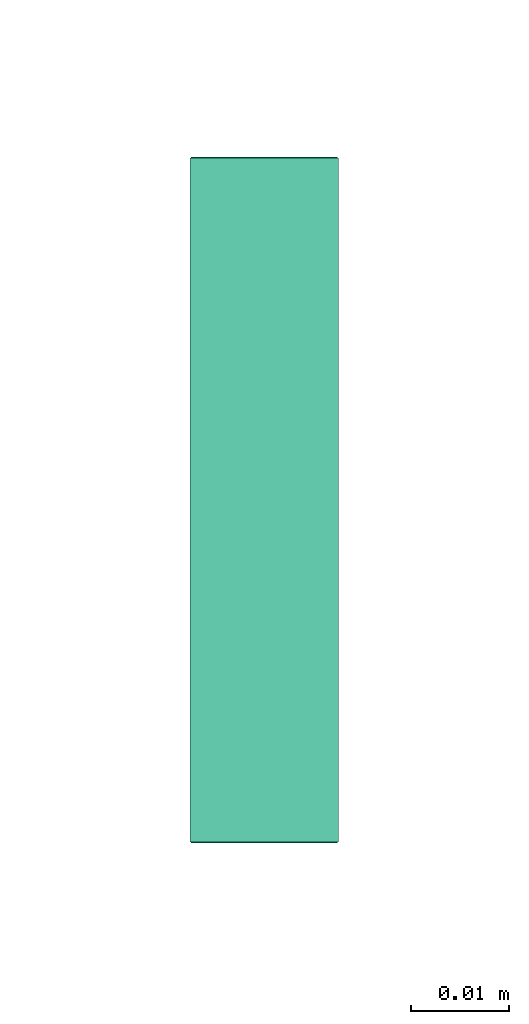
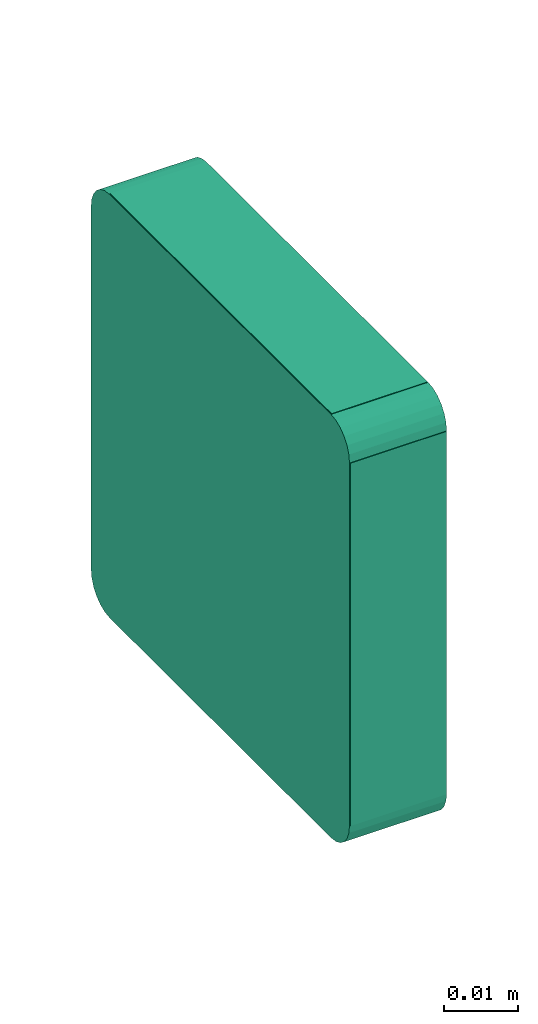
# One storey, part 7 of 10: 1 distribution control element.
"""IFC2X3 building model written with IfcOpenShell, lengths in millimetres."""

import ifcopenshell
import ifcopenshell.guid

model = None  # the IFC model being written
_history = None  # IfcOwnerHistory: only IFC2X3 demands one
_inside = {}  # id of a spatial element -> (the spatial element, [elements in it])
_under = {}  # id of a project, library or spatial element -> (it, [spatial elements below it])
_declared = {}  # id of a project -> (the project, [libraries it declares])
_typed = {}  # id of a type object -> (the type object, [elements of that type])
_made_of = {}  # id of a material, layer set ... -> (it, [elements and type objects made of it])


def new_model(schema):
    """Start an empty IFC model of exactly this schema.

    Asked for "IFC4X3", IfcOpenShell would pick the latest addendum, in which some entities
    have other attributes; the version numbers below select the first issue.
    IFC2X3 requires an IfcOwnerHistory on every rooted entity: one is made here for all.
    """
    global model, _history
    if schema == "IFC4X3":
        model = ifcopenshell.file(schema_version=(4, 3, 0, 0))
    else:
        model = ifcopenshell.file(schema=schema)
    _inside.clear()
    _under.clear()
    _declared.clear()
    _typed.clear()
    _made_of.clear()
    _history = None
    if model.schema == "IFC2X3":
        org = make("IfcOrganization", Name="unknown")
        user = make(
            "IfcPersonAndOrganization",
            ThePerson=make("IfcPerson", FamilyName="unknown"),
            TheOrganization=org,
        )
        app = make(
            "IfcApplication",
            ApplicationDeveloper=org,
            Version="unknown",
            ApplicationFullName="unknown",
            ApplicationIdentifier="unknown",
        )
        _history = make(
            "IfcOwnerHistory",
            OwningUser=user,
            OwningApplication=app,
            ChangeAction="ADDED",
            CreationDate=0,
        )
    return model


def make(cls, **values):
    """One entity of the class cls with the attributes given. An attribute that is None is left unset."""
    return model.create_entity(
        cls, **{name: value for name, value in values.items() if value is not None}
    )


def entity(cls, *values):
    """Any entity or typed value of the class cls, its attributes in the order of the schema. None: left unset."""
    e = model.create_entity(cls)
    for i, value in enumerate(values):
        if value is not None:
            e[i] = value
    return e


def rooted(cls, **values):
    """An entity with a GlobalId (a new one), such as an element, a storey or a relation."""
    return make(cls, GlobalId=ifcopenshell.guid.new(), OwnerHistory=_history, **values)


def si_unit(unit_type, name, prefix=None):
    """IfcSIUnit, for example si_unit("LENGTHUNIT", "METRE", prefix="MILLI")."""
    return make("IfcSIUnit", UnitType=unit_type, Prefix=prefix, Name=name)


def converted_unit(unit_type, name, factor, base, dimensions=None, offset=None):
    """IfcConversionBasedUnit, such as the inch: factor (a typed value) times the base unit."""
    return make(
        "IfcConversionBasedUnit"
        if offset is None
        else "IfcConversionBasedUnitWithOffset",
        ConversionOffset=offset,
        Dimensions=None
        if dimensions is None
        else entity("IfcDimensionalExponents", *dimensions),
        UnitType=unit_type,
        Name=name,
        ConversionFactor=make(
            "IfcMeasureWithUnit", ValueComponent=factor, UnitComponent=base
        ),
    )


def derived_unit(unit_type, elements):
    """IfcDerivedUnit: a product of units, each with its exponent."""
    return make(
        "IfcDerivedUnit",
        Elements=[
            make("IfcDerivedUnitElement", Unit=unit, Exponent=power)
            for unit, power in elements
        ],
        UnitType=unit_type,
    )


def assignment(units):
    """IfcUnitAssignment: the units of a project."""
    return None if units is None else make("IfcUnitAssignment", Units=units)


def point(xyz):
    """IfcCartesianPoint."""
    return None if xyz is None else make("IfcCartesianPoint", Coordinates=xyz)


def direction(xyz):
    """IfcDirection."""
    return None if xyz is None else make("IfcDirection", DirectionRatios=xyz)


def frame(location, z_axis=None, x_axis=None):
    """IfcAxis2Placement3D, a coordinate frame: its origin and axes. An axis left out is left unset."""
    return make(
        "IfcAxis2Placement3D",
        Location=point(location),
        Axis=direction(z_axis),
        RefDirection=direction(x_axis),
    )


def origin_with_axes():
    """The frame at (0, 0, 0) with the z axis (0, 0, 1) and the x axis (1, 0, 0) written out."""
    return frame((0.0, 0.0, 0.0), z_axis=(0.0, 0.0, 1.0), x_axis=(1.0, 0.0, 0.0))


def place(relative_to, where):
    """IfcLocalPlacement: puts the frame where relative to a parent placement (None: the world)."""
    return make(
        "IfcLocalPlacement", PlacementRelTo=relative_to, RelativePlacement=where
    )


def context(
    kind, dimensions, precision=None, world=None, true_north=None, identifier=None
):
    """IfcGeometricRepresentationContext, for example the 3D "Model" context."""
    return make(
        "IfcGeometricRepresentationContext",
        ContextIdentifier=identifier,
        ContextType=kind,
        CoordinateSpaceDimension=dimensions,
        Precision=precision,
        WorldCoordinateSystem=world,
        TrueNorth=true_north,
    )


def subcontext(parent, identifier, kind, view, scale=None):
    """IfcGeometricRepresentationSubContext, for example "Body" below "Model"."""
    return make(
        "IfcGeometricRepresentationSubContext",
        ContextIdentifier=identifier,
        ContextType=kind,
        ParentContext=parent,
        TargetScale=scale,
        TargetView=view,
    )


def project(units=None, contexts=None):
    """IfcProject with its units and contexts."""
    return rooted(
        "IfcProject",
        Name="project",
        RepresentationContexts=contexts,
        UnitsInContext=assignment(units),
    )


def spatial(cls, under=None, at=None, **own):
    """A site, building, storey or space (cls), placed at a placement, below another one or the project."""
    s = rooted(cls, ObjectPlacement=at, **own)
    if under is not None:
        _under.setdefault(under.id(), (under, []))[1].append(s)
    return s


def faces_of(points, faces, orient=None, outer=None):
    """IfcFace entities. A face is a list of loops; a loop is a list of indices into points, from 0.

    orient and outer hold one flag for each loop. By default every Orientation is true, the
    first loop of a face is its IfcFaceOuterBound and the others are IfcFaceBound.
    """
    made = []
    for i, loops in enumerate(faces):
        bounds = []
        for j, loop in enumerate(loops):
            is_outer = j == 0 if outer is None else outer[i][j]
            bounds.append(
                make(
                    "IfcFaceOuterBound" if is_outer else "IfcFaceBound",
                    Bound=make("IfcPolyLoop", Polygon=[points[k] for k in loop]),
                    Orientation=True if orient is None else orient[i][j],
                )
            )
        made.append(make("IfcFace", Bounds=bounds))
    return made


def open_shell(faces, orient=None, outer=None):
    """The faces of one IfcOpenShell. surface_model builds it on its shared points."""
    return ("IfcOpenShell", faces, orient, outer)


def surface_model(cls, points, shells):
    """IfcFaceBasedSurfaceModel or IfcShellBasedSurfaceModel (cls): surfaces that need not close."""
    shared = [point(p) for p in points]
    made = [make(c, CfsFaces=faces_of(shared, fs, o, b)) for c, fs, o, b in shells]
    if cls == "IfcFaceBasedSurfaceModel":
        return make(cls, FbsmFaces=made)
    return make(cls, SbsmBoundary=made)


def shape(context_of_items, identifier, shape_type, items):
    """IfcShapeRepresentation: the items that make up one representation, for example the "Body"."""
    return make(
        "IfcShapeRepresentation",
        ContextOfItems=context_of_items,
        RepresentationIdentifier=identifier,
        RepresentationType=shape_type,
        Items=items,
    )


def source(mapping_origin, context_of_items, identifier, shape_type, items):
    """IfcRepresentationMap: a shape defined once, which mapped items show again and again."""
    return make(
        "IfcRepresentationMap",
        MappingOrigin=mapping_origin,
        MappedRepresentation=shape(context_of_items, identifier, shape_type, items),
    )


def transform(
    local_origin,
    x_axis=None,
    y_axis=None,
    z_axis=None,
    scale=None,
    scale2=None,
    scale3=None,
    uniform=True,
):
    """IfcCartesianTransformationOperator3D, or its non-uniform kind. x_axis, y_axis, z_axis: its Axis1, 2, 3."""
    if uniform:
        return make(
            "IfcCartesianTransformationOperator3D",
            Axis1=direction(x_axis),
            Axis2=direction(y_axis),
            LocalOrigin=point(local_origin),
            Scale=scale,
            Axis3=direction(z_axis),
        )
    return make(
        "IfcCartesianTransformationOperator3DnonUniform",
        Axis1=direction(x_axis),
        Axis2=direction(y_axis),
        LocalOrigin=point(local_origin),
        Scale=scale,
        Axis3=direction(z_axis),
        Scale2=scale2,
        Scale3=scale3,
    )


def mapped(mapping_source, mapping_target):
    """IfcMappedItem: shows the shape of a source again, moved by a transform."""
    return make(
        "IfcMappedItem", MappingSource=mapping_source, MappingTarget=mapping_target
    )


def made_of(thing, what):
    """Note that an element or type object is made of a material, layer set ...; save() writes the relation."""
    if what is not None:
        _made_of.setdefault(what.id(), (what, []))[1].append(thing)
    return thing


def type_object(cls, material=None, **own):
    """A type object (cls), such as IfcWallType, which elements share."""
    return made_of(rooted(cls, **own), material)


def element(
    cls,
    number,
    at=None,
    inside=None,
    cuts=None,
    type_object=None,
    material=None,
    context=None,
    identifier="Body",
    shape_type=None,
    held_by="IfcProductDefinitionShape",
    body=None,
    shapes=None,
    **own,
):
    """One element of the class cls, such as IfcWall. Its Tag is "e" and its number.

    at: its placement. inside: the storey or other place that contains it. cuts: it is an
    opening in that element (IfcRelVoidsElement). A single representation is given by context,
    identifier, shape_type and body (its items); several are given by shapes. held_by: the class
    of the entity that holds the representations. save() writes the other relations.
    """
    e = rooted(cls, Tag="e%d" % number, ObjectPlacement=at, **own)
    if body is not None:
        shapes = [shape(context, identifier, shape_type, body)]
    if shapes is not None:
        e.Representation = make(held_by, Representations=shapes)
    if inside is not None:
        _inside.setdefault(inside.id(), (inside, []))[1].append(e)
    if cuts is not None:
        rooted(
            "IfcRelVoidsElement", RelatingBuildingElement=cuts, RelatedOpeningElement=e
        )
    if type_object is not None:
        _typed.setdefault(type_object.id(), (type_object, []))[1].append(e)
    return made_of(e, material)


def aggregate(whole, parts):
    """IfcRelAggregates: a whole, such as a stair, and the parts it consists of."""
    return rooted("IfcRelAggregates", RelatingObject=whole, RelatedObjects=parts)


def save(model, path):
    """Write the relations noted so far, then the file.

    IfcRelAggregates (storeys below a building ...), IfcRelContainedInSpatialStructure (elements
    in a storey), IfcRelDefinesByType, IfcRelAssociatesMaterial and IfcRelDeclares: one each for
    every whole, place, type object, material and project.
    """
    for whole, parts in _under.values():
        aggregate(whole, parts)
    for where, things in _inside.values():
        rooted(
            "IfcRelContainedInSpatialStructure",
            RelatedElements=things,
            RelatingStructure=where,
        )
    for kind, things in _typed.values():
        rooted("IfcRelDefinesByType", RelatedObjects=things, RelatingType=kind)
    for what, things in _made_of.values():
        rooted("IfcRelAssociatesMaterial", RelatedObjects=things, RelatingMaterial=what)
    for by, libraries in _declared.values():
        rooted("IfcRelDeclares", RelatingContext=by, RelatedDefinitions=libraries)
    model.write(path)


model = new_model("IFC2X3")

# Units and contexts
model_context = context("Model", 3, precision=0.01, world=frame((0.0, 4.29681676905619e-09, 0.0)), true_north=direction((4.01073788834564e-13, 1.0)))
plan_context = context("Plan", 3, precision=0.01, world=frame((0.0, 4.29681676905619e-09, 0.0)), true_north=direction((4.01073788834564e-13, 1.0)))
body_context = subcontext(model_context, "Body", "Model", "MODEL_VIEW")
ifc_project = project(units=[converted_unit("PLANEANGLEUNIT", "DEGREE", entity("IfcPositiveLengthMeasure", 0.0174532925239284), si_unit("PLANEANGLEUNIT", "RADIAN"), dimensions=[0, 0, 0, 0, 0, 0, 0]), si_unit("AREAUNIT", "SQUARE_METRE"), si_unit("LENGTHUNIT", "METRE", prefix="MILLI"), si_unit("MASSUNIT", "GRAM", prefix="KILO"), si_unit("POWERUNIT", "WATT"), si_unit("PRESSUREUNIT", "PASCAL"), si_unit("FORCEUNIT", "NEWTON", prefix="KILO"), si_unit("ELECTRICVOLTAGEUNIT", "VOLT"), si_unit("ELECTRICCURRENTUNIT", "AMPERE"), si_unit("THERMODYNAMICTEMPERATUREUNIT", "DEGREE_CELSIUS"), si_unit("TIMEUNIT", "SECOND"), si_unit("VOLUMEUNIT", "CUBIC_METRE"), derived_unit("LINEARVELOCITYUNIT", [(si_unit("LENGTHUNIT", "METRE"), 1), (si_unit("TIMEUNIT", "SECOND"), -1)]), derived_unit("VOLUMETRICFLOWRATEUNIT", [(si_unit("VOLUMEUNIT", "CUBIC_METRE"), 1), (si_unit("TIMEUNIT", "SECOND"), -1)]), derived_unit("THERMALTRANSMITTANCEUNIT", [(si_unit("POWERUNIT", "WATT"), 1), (si_unit("THERMODYNAMICTEMPERATUREUNIT", "KELVIN"), -1), (si_unit("AREAUNIT", "SQUARE_METRE"), -1)]), derived_unit("SOUNDPRESSUREUNIT", [(si_unit("PRESSUREUNIT", "PASCAL"), 1)])], contexts=[model_context, plan_context])

# Site, building, storey
site_placement = place(None, frame((0.0, -4.29681676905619e-09, 0.0), z_axis=(0.0, 0.0, 1.0), x_axis=(1.0, 0.0, 0.0)))
site = spatial("IfcSite", under=ifc_project, at=site_placement, Name="ENGM", CompositionType="ELEMENT")
building_placement = place(site_placement, frame((0.0, 4.29681676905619e-09, 0.0), z_axis=(0.0, 0.0, 1.0), x_axis=(1.0, 0.0, 0.0)))
building = spatial("IfcBuilding", under=site, at=building_placement, Name="TS", CompositionType="ELEMENT")
storey_placement = place(building_placement, frame((0.0, 0.0, 210900.0), z_axis=(0.0, 0.0, 1.0), x_axis=(1.0, 0.0, 0.0)))
storey = spatial("IfcBuildingStorey", under=building, at=storey_placement, Name="Nivå F", CompositionType="ELEMENT", Elevation=210900.0)

# Distribution control element
alarm_type = type_object("IfcAlarmType", Name="Standard", PredefinedType="NOTDEFINED")
shared_shape = source(origin_with_axes(), body_context, "Body", "SurfaceModel", [
    surface_model("IfcShellBasedSurfaceModel", [(-30.0, 0.0, -35.1), (-30.0, 15.0, -35.1), (30.0, 0.0, -35.1), (30.0, 15.0, -35.1), (30.0, 0.0, -34.9), (30.0, 15.0, -34.9), (-30.0, 0.0, -34.9), (-30.0, 15.0, -34.9), (34.9, 15.0, -30.0), (34.9, 0.0, -30.0), (34.9, 15.0, 30.0), (34.9, 0.0, 30.0), (35.1, 15.0, 30.0), (35.1, 0.0, 30.0), (35.1, 15.0, -30.0), (35.1, 0.0, -30.0), (-35.1, 15.0, -30.0), (-35.1, 0.0, -30.0), (-35.1, 15.0, 30.0), (-35.1, 0.0, 30.0), (-34.9, 15.0, 30.0), (-34.9, 0.0, 30.0), (-34.9, 15.0, -30.0), (-34.9, 0.0, -30.0), (-30.0, 0.0, 34.9), (-30.0, 15.0, 34.9), (30.0, 0.0, 34.9), (30.0, 15.0, 34.9), (30.0, 0.0, 35.1), (30.0, 15.0, 35.1), (-30.0, 0.0, 35.1), (-30.0, 15.0, 35.1), (-35.0, 14.9, -30.0), (-30.0, 14.9, -30.0), (-35.0, 14.9, 30.0), (-30.0, 14.9, 30.0), (-35.0, 15.1, 30.0), (-30.0, 15.1, 30.0), (-30.0, 15.1, -30.0), (-35.0, 15.1, -30.0), (-30.0, 14.9, -35.0), (30.0, 14.9, -35.0), (30.0, 14.9, -30.0), (30.0, 15.1, -30.0), (30.0, 15.1, -35.0), (-30.0, 15.1, -35.0), (35.0, 14.9, -30.0), (30.0, 14.9, 30.0), (35.0, 14.9, 30.0), (30.0, 15.1, 30.0), (35.0, 15.1, 30.0), (35.0, 15.1, -30.0), (-35.0, -0.1, -30.0), (-30.0, -0.1, -30.0), (-35.0, -0.1, 30.0), (-30.0, -0.1, 30.0), (-35.0, 0.1, 30.0), (-30.0, 0.1, 30.0), (-30.0, 0.1, -30.0), (-35.0, 0.1, -30.0), (-30.0, -0.1, -35.0), (30.0, -0.1, -35.0), (30.0, -0.1, -30.0), (30.0, 0.1, -30.0), (30.0, 0.1, -35.0), (-30.0, 0.1, -35.0), (35.0, -0.1, -30.0), (30.0, -0.1, 30.0), (35.0, -0.1, 30.0), (30.0, 0.1, 30.0), (35.0, 0.1, 30.0), (35.0, 0.1, -30.0), (30.0, 14.9, 35.0), (-30.0, 14.9, 35.0), (-30.0, 15.1, 35.0), (30.0, 15.1, 35.0), (30.0, -0.1, 35.0), (-30.0, -0.1, 35.0), (-30.0, 0.1, 35.0), (30.0, 0.1, 35.0), (-34.82963, 15.0, -31.2941), (-35.0, 15.0, -30.0), (-34.2, 15.0, -30.0), (-34.05689, 15.0, -31.08704), (-34.33013, 15.0, -32.5), (-33.63731, 15.0, -32.1), (-33.53553, 15.0, -33.53553), (-32.96985, 15.0, -32.96985), (-32.1, 15.0, -33.63731), (-31.08704, 15.0, -34.05689), (-32.5, 15.0, -34.33013), (-31.2941, 15.0, -34.82963), (-30.0, 15.0, -34.2), (-30.0, 15.0, -35.0), (-32.5, 0.0, -34.33013), (-32.1, 0.0, -33.63731), (-33.53553, 0.0, -33.53553), (-31.08704, 0.0, -34.05689), (-30.0, 0.0, -35.0), (-30.0, 0.0, -34.2), (-31.2941, 0.0, -34.82963), (-32.96985, 0.0, -32.96985), (-34.82963, 0.0, -31.2941), (-34.05689, 0.0, -31.08704), (-34.2, 0.0, -30.0), (-35.0, 0.0, -30.0), (-33.63731, 0.0, -32.1), (-34.33013, 0.0, -32.5), (31.2941, 15.0, -34.82963), (30.0, 15.0, -35.0), (30.0, 15.0, -34.2), (31.08704, 15.0, -34.05689), (32.5, 15.0, -34.33013), (32.1, 15.0, -33.63731), (33.53553, 15.0, -33.53553), (32.96985, 15.0, -32.96985), (33.63731, 15.0, -32.1), (34.05689, 15.0, -31.08704), (34.33013, 15.0, -32.5), (34.82963, 15.0, -31.2941), (34.2, 15.0, -30.0), (35.0, 15.0, -30.0), (34.33013, 0.0, -32.5), (33.63731, 0.0, -32.1), (33.53553, 0.0, -33.53553), (34.05689, 0.0, -31.08704), (35.0, 0.0, -30.0), (34.2, 0.0, -30.0), (34.82963, 0.0, -31.2941), (32.96985, 0.0, -32.96985), (31.2941, 0.0, -34.82963), (31.08704, 0.0, -34.05689), (30.0, 0.0, -34.2), (30.0, 0.0, -35.0), (32.1, 0.0, -33.63731), (32.5, 0.0, -34.33013), (-31.2941, 15.0, 34.82963), (-30.0, 15.0, 35.0), (-30.0, 15.0, 34.2), (-31.08704, 15.0, 34.05689), (-32.5, 15.0, 34.33013), (-32.1, 15.0, 33.63731), (-33.53553, 15.0, 33.53553), (-32.96985, 15.0, 32.96985), (-33.63731, 15.0, 32.1), (-34.05689, 15.0, 31.08704), (-34.33013, 15.0, 32.5), (-34.82963, 15.0, 31.2941), (-34.2, 15.0, 30.0), (-35.0, 15.0, 30.0), (-34.33013, 0.0, 32.5), (-33.63731, 0.0, 32.1), (-33.53553, 0.0, 33.53553), (-34.05689, 0.0, 31.08704), (-35.0, 0.0, 30.0), (-34.2, 0.0, 30.0), (-34.82963, 0.0, 31.2941), (-32.96985, 0.0, 32.96985), (-31.2941, 0.0, 34.82963), (-31.08704, 0.0, 34.05689), (-30.0, 0.0, 34.2), (-30.0, 0.0, 35.0), (-32.1, 0.0, 33.63731), (-32.5, 0.0, 34.33013), (34.82963, 15.0, 31.2941), (35.0, 15.0, 30.0), (34.2, 15.0, 30.0), (34.05689, 15.0, 31.08704), (34.33013, 15.0, 32.5), (33.63731, 15.0, 32.1), (33.53553, 15.0, 33.53553), (32.96985, 15.0, 32.96985), (32.1, 15.0, 33.63731), (31.08704, 15.0, 34.05689), (32.5, 15.0, 34.33013), (31.2941, 15.0, 34.82963), (30.0, 15.0, 34.2), (30.0, 15.0, 35.0), (32.5, 0.0, 34.33013), (32.1, 0.0, 33.63731), (33.53553, 0.0, 33.53553), (31.08704, 0.0, 34.05689), (30.0, 0.0, 35.0), (30.0, 0.0, 34.2), (31.2941, 0.0, 34.82963), (32.96985, 0.0, 32.96985), (34.82963, 0.0, 31.2941), (34.05689, 0.0, 31.08704), (34.2, 0.0, 30.0), (35.0, 0.0, 30.0), (33.63731, 0.0, 32.1), (34.33013, 0.0, 32.5), (-34.33013, 15.1, -32.5), (-34.82963, 15.1, -31.2941), (-33.53553, 15.1, -33.53553), (-32.5, 15.1, -34.33013), (-31.2941, 15.1, -34.82963), (-32.5, 14.9, -34.33013), (-31.2941, 14.9, -34.82963), (-33.53553, 14.9, -33.53553), (-34.33013, 14.9, -32.5), (-34.82963, 14.9, -31.2941), (32.5, 15.1, -34.33013), (31.2941, 15.1, -34.82963), (33.53553, 15.1, -33.53553), (34.33013, 15.1, -32.5), (34.82963, 15.1, -31.2941), (34.33013, 14.9, -32.5), (34.82963, 14.9, -31.2941), (33.53553, 14.9, -33.53553), (31.2941, 14.9, -34.82963), (32.5, 14.9, -34.33013), (-34.33013, 0.1, -32.5), (-34.82963, 0.1, -31.2941), (-33.53553, 0.1, -33.53553), (-32.5, 0.1, -34.33013), (-31.2941, 0.1, -34.82963), (-32.5, -0.1, -34.33013), (-31.2941, -0.1, -34.82963), (-33.53553, -0.1, -33.53553), (-34.33013, -0.1, -32.5), (-34.82963, -0.1, -31.2941), (32.5, 0.1, -34.33013), (31.2941, 0.1, -34.82963), (33.53553, 0.1, -33.53553), (34.33013, 0.1, -32.5), (34.82963, 0.1, -31.2941), (34.33013, -0.1, -32.5), (34.82963, -0.1, -31.2941), (33.53553, -0.1, -33.53553), (31.2941, -0.1, -34.82963), (32.5, -0.1, -34.33013), (-32.5, 15.1, 34.33013), (-31.2941, 15.1, 34.82963), (-33.53553, 15.1, 33.53553), (-34.33013, 15.1, 32.5), (-34.82963, 15.1, 31.2941), (-34.33013, 14.9, 32.5), (-34.82963, 14.9, 31.2941), (-33.53553, 14.9, 33.53553), (-31.2941, 14.9, 34.82963), (-32.5, 14.9, 34.33013), (-32.5, 0.1, 34.33013), (-31.2941, 0.1, 34.82963), (-33.53553, 0.1, 33.53553), (-34.33013, 0.1, 32.5), (-34.82963, 0.1, 31.2941), (-34.33013, -0.1, 32.5), (-34.82963, -0.1, 31.2941), (-33.53553, -0.1, 33.53553), (-31.2941, -0.1, 34.82963), (-32.5, -0.1, 34.33013), (34.33013, 15.1, 32.5), (34.82963, 15.1, 31.2941), (33.53553, 15.1, 33.53553), (32.5, 15.1, 34.33013), (31.2941, 15.1, 34.82963), (32.5, 14.9, 34.33013), (31.2941, 14.9, 34.82963), (33.53553, 14.9, 33.53553), (34.82963, 14.9, 31.2941), (34.33013, 14.9, 32.5), (34.33013, 0.1, 32.5), (34.82963, 0.1, 31.2941), (33.53553, 0.1, 33.53553), (32.5, 0.1, 34.33013), (31.2941, 0.1, 34.82963), (32.5, -0.1, 34.33013), (31.2941, -0.1, 34.82963), (33.53553, -0.1, 33.53553), (34.82963, -0.1, 31.2941), (34.33013, -0.1, 32.5)], [open_shell([[[0, 1, 2]], [[3, 2, 1]], [[4, 5, 6]], [[7, 6, 5]], [[3, 1, 7]], [[7, 5, 3]], [[2, 3, 5]], [[5, 4, 2]], [[0, 2, 4]], [[4, 6, 0]], [[1, 0, 6]], [[6, 7, 1]], [[8, 9, 10]], [[11, 10, 9]], [[12, 13, 14]], [[15, 14, 13]], [[11, 9, 15]], [[15, 13, 11]], [[10, 11, 13]], [[13, 12, 10]], [[8, 10, 12]], [[12, 14, 8]], [[9, 8, 14]], [[14, 15, 9]], [[16, 17, 18]], [[19, 18, 17]], [[20, 21, 22]], [[23, 22, 21]], [[19, 17, 23]], [[23, 21, 19]], [[18, 19, 21]], [[21, 20, 18]], [[16, 18, 20]], [[20, 22, 16]], [[17, 16, 22]], [[22, 23, 17]], [[24, 25, 26]], [[27, 26, 25]], [[28, 29, 30]], [[31, 30, 29]], [[27, 25, 31]], [[31, 29, 27]], [[26, 27, 29]], [[29, 28, 26]], [[24, 26, 28]], [[28, 30, 24]], [[25, 24, 30]], [[30, 31, 25]], [[32, 33, 34]], [[35, 34, 33]], [[36, 37, 38]], [[38, 39, 36]], [[35, 33, 38]], [[38, 37, 35]], [[34, 35, 37]], [[37, 36, 34]], [[32, 34, 36]], [[36, 39, 32]], [[33, 32, 39]], [[39, 38, 33]], [[40, 41, 42]], [[42, 33, 40]], [[38, 43, 44]], [[44, 45, 38]], [[42, 41, 44]], [[44, 43, 42]], [[33, 42, 43]], [[43, 38, 33]], [[40, 33, 38]], [[38, 45, 40]], [[41, 40, 45]], [[45, 44, 41]], [[42, 46, 47]], [[48, 47, 46]], [[49, 50, 51]], [[51, 43, 49]], [[48, 46, 51]], [[51, 50, 48]], [[47, 48, 50]], [[50, 49, 47]], [[42, 47, 49]], [[49, 43, 42]], [[46, 42, 43]], [[43, 51, 46]], [[52, 53, 54]], [[55, 54, 53]], [[56, 57, 58]], [[58, 59, 56]], [[55, 53, 58]], [[58, 57, 55]], [[54, 55, 57]], [[57, 56, 54]], [[52, 54, 56]], [[56, 59, 52]], [[53, 52, 59]], [[59, 58, 53]], [[60, 61, 62]], [[62, 53, 60]], [[58, 63, 64]], [[64, 65, 58]], [[62, 61, 64]], [[64, 63, 62]], [[53, 62, 63]], [[63, 58, 53]], [[60, 53, 58]], [[58, 65, 60]], [[61, 60, 65]], [[65, 64, 61]], [[62, 66, 67]], [[68, 67, 66]], [[69, 70, 71]], [[71, 63, 69]], [[68, 66, 71]], [[71, 70, 68]], [[67, 68, 70]], [[70, 69, 67]], [[62, 67, 69]], [[69, 63, 62]], [[66, 62, 63]], [[63, 71, 66]], [[35, 47, 72]], [[72, 73, 35]], [[74, 75, 49]], [[49, 37, 74]], [[72, 47, 49]], [[49, 75, 72]], [[73, 72, 75]], [[75, 74, 73]], [[35, 73, 74]], [[74, 37, 35]], [[47, 35, 37]], [[37, 49, 47]], [[55, 67, 76]], [[76, 77, 55]], [[78, 79, 69]], [[69, 57, 78]], [[76, 67, 69]], [[69, 79, 76]], [[77, 76, 79]], [[79, 78, 77]], [[55, 77, 78]], [[78, 57, 55]], [[67, 55, 57]], [[57, 69, 67]], [[33, 42, 47]], [[47, 35, 33]], [[37, 49, 43]], [[43, 38, 37]], [[47, 42, 43]], [[43, 49, 47]], [[35, 47, 49]], [[49, 37, 35]], [[33, 35, 37]], [[37, 38, 33]], [[42, 33, 38]], [[38, 43, 42]], [[53, 62, 67]], [[67, 55, 53]], [[57, 69, 63]], [[63, 58, 57]], [[67, 62, 63]], [[63, 69, 67]], [[55, 67, 69]], [[69, 57, 55]], [[53, 55, 57]], [[57, 58, 53]], [[62, 53, 58]], [[58, 63, 62]], [[80, 81, 82]], [[80, 82, 83]], [[80, 83, 84]], [[85, 86, 84]], [[86, 85, 87]], [[83, 85, 84]], [[88, 89, 90]], [[88, 90, 86]], [[90, 89, 91]], [[92, 93, 91]], [[89, 92, 91]], [[88, 86, 87]], [[94, 95, 96]], [[97, 95, 94]], [[98, 99, 100]], [[100, 99, 97]], [[97, 94, 100]], [[95, 101, 96]], [[102, 103, 104]], [[102, 104, 105]], [[96, 106, 107]], [[106, 96, 101]], [[107, 106, 103]], [[103, 102, 107]], [[82, 81, 104]], [[105, 104, 81]], [[83, 82, 104]], [[85, 83, 103]], [[103, 83, 104]], [[101, 87, 106]], [[85, 103, 106]], [[85, 106, 87]], [[89, 88, 95]], [[92, 89, 97]], [[95, 88, 101]], [[89, 95, 97]], [[92, 97, 99]], [[87, 101, 88]], [[93, 92, 98]], [[99, 98, 92]], [[91, 98, 100]], [[90, 100, 94]], [[93, 98, 91]], [[90, 91, 100]], [[86, 90, 94]], [[94, 96, 86]], [[84, 96, 107]], [[80, 107, 102]], [[84, 107, 80]], [[81, 80, 102]], [[105, 81, 102]], [[96, 84, 86]], [[108, 109, 110]], [[108, 110, 111]], [[108, 111, 112]], [[113, 114, 112]], [[114, 113, 115]], [[111, 113, 112]], [[116, 117, 118]], [[116, 118, 114]], [[118, 117, 119]], [[120, 121, 119]], [[117, 120, 119]], [[116, 114, 115]], [[122, 123, 124]], [[125, 123, 122]], [[126, 127, 128]], [[128, 127, 125]], [[125, 122, 128]], [[123, 129, 124]], [[130, 131, 132]], [[130, 132, 133]], [[124, 134, 135]], [[134, 124, 129]], [[135, 134, 131]], [[131, 130, 135]], [[110, 109, 132]], [[133, 132, 109]], [[111, 110, 132]], [[113, 111, 131]], [[131, 111, 132]], [[129, 115, 134]], [[113, 131, 134]], [[113, 134, 115]], [[117, 116, 123]], [[120, 117, 125]], [[123, 116, 129]], [[117, 123, 125]], [[120, 125, 127]], [[115, 129, 116]], [[121, 120, 127]], [[127, 126, 121]], [[119, 126, 128]], [[118, 128, 122]], [[121, 126, 119]], [[118, 119, 128]], [[114, 118, 122]], [[122, 124, 114]], [[112, 124, 135]], [[108, 135, 130]], [[112, 135, 108]], [[109, 108, 130]], [[133, 109, 130]], [[124, 112, 114]], [[136, 137, 138]], [[136, 138, 139]], [[136, 139, 140]], [[141, 142, 140]], [[142, 141, 143]], [[139, 141, 140]], [[144, 145, 146]], [[144, 146, 142]], [[146, 145, 147]], [[148, 149, 147]], [[145, 148, 147]], [[144, 142, 143]], [[150, 151, 152]], [[153, 151, 150]], [[154, 155, 156]], [[156, 155, 153]], [[153, 150, 156]], [[151, 157, 152]], [[158, 159, 160]], [[158, 160, 161]], [[152, 162, 163]], [[162, 152, 157]], [[163, 162, 159]], [[159, 158, 163]], [[138, 137, 160]], [[161, 160, 137]], [[139, 138, 160]], [[141, 139, 159]], [[159, 139, 160]], [[157, 143, 162]], [[141, 159, 162]], [[141, 162, 143]], [[145, 144, 151]], [[148, 145, 153]], [[151, 144, 157]], [[145, 151, 153]], [[148, 153, 155]], [[143, 157, 144]], [[149, 148, 154]], [[155, 154, 148]], [[147, 154, 156]], [[146, 156, 150]], [[149, 154, 147]], [[146, 147, 156]], [[142, 146, 150]], [[150, 152, 142]], [[140, 152, 163]], [[136, 163, 158]], [[140, 163, 136]], [[137, 136, 158]], [[161, 137, 158]], [[152, 140, 142]], [[164, 165, 166]], [[164, 166, 167]], [[164, 167, 168]], [[169, 170, 168]], [[170, 169, 171]], [[167, 169, 168]], [[172, 173, 174]], [[172, 174, 170]], [[174, 173, 175]], [[176, 177, 175]], [[173, 176, 175]], [[172, 170, 171]], [[178, 179, 180]], [[181, 179, 178]], [[182, 183, 184]], [[184, 183, 181]], [[181, 178, 184]], [[179, 185, 180]], [[186, 187, 188]], [[186, 188, 189]], [[180, 190, 191]], [[190, 180, 185]], [[191, 190, 187]], [[187, 186, 191]], [[166, 165, 188]], [[189, 188, 165]], [[167, 166, 188]], [[169, 167, 187]], [[187, 167, 188]], [[185, 171, 190]], [[169, 187, 190]], [[169, 190, 171]], [[173, 172, 179]], [[176, 173, 181]], [[179, 172, 185]], [[173, 179, 181]], [[176, 181, 183]], [[171, 185, 172]], [[177, 176, 182]], [[183, 182, 176]], [[175, 182, 184]], [[174, 184, 178]], [[177, 182, 175]], [[174, 175, 184]], [[170, 174, 178]], [[178, 180, 170]], [[168, 180, 191]], [[164, 191, 186]], [[168, 191, 164]], [[165, 164, 186]], [[189, 165, 186]], [[180, 168, 170]], [[38, 192, 193]], [[38, 194, 192]], [[193, 39, 38]], [[195, 38, 196]], [[38, 195, 194]], [[45, 196, 38]], [[33, 197, 198]], [[197, 33, 199]], [[198, 40, 33]], [[200, 33, 201]], [[199, 33, 200]], [[201, 33, 32]], [[38, 39, 32]], [[32, 33, 38]], [[45, 38, 33]], [[33, 40, 45]], [[196, 40, 198]], [[195, 198, 197]], [[45, 40, 196]], [[195, 196, 198]], [[194, 195, 197]], [[197, 199, 194]], [[192, 199, 200]], [[193, 200, 201]], [[192, 200, 193]], [[39, 193, 201]], [[32, 39, 201]], [[199, 192, 194]], [[202, 203, 43]], [[43, 204, 202]], [[43, 203, 44]], [[205, 43, 206]], [[43, 205, 204]], [[51, 206, 43]], [[42, 207, 208]], [[207, 42, 209]], [[208, 46, 42]], [[210, 211, 42]], [[209, 42, 211]], [[42, 41, 210]], [[43, 44, 41]], [[41, 42, 43]], [[51, 43, 42]], [[42, 46, 51]], [[206, 46, 208]], [[205, 208, 207]], [[51, 46, 206]], [[205, 206, 208]], [[204, 205, 207]], [[207, 209, 204]], [[202, 209, 211]], [[203, 211, 210]], [[202, 211, 203]], [[44, 203, 210]], [[41, 44, 210]], [[209, 202, 204]], [[58, 212, 213]], [[58, 214, 212]], [[213, 59, 58]], [[215, 58, 216]], [[58, 215, 214]], [[65, 216, 58]], [[53, 217, 218]], [[217, 53, 219]], [[218, 60, 53]], [[220, 53, 221]], [[219, 53, 220]], [[221, 53, 52]], [[58, 59, 52]], [[52, 53, 58]], [[65, 58, 53]], [[53, 60, 65]], [[216, 60, 218]], [[215, 218, 217]], [[65, 60, 216]], [[215, 216, 218]], [[214, 215, 217]], [[217, 219, 214]], [[212, 219, 220]], [[213, 220, 221]], [[212, 220, 213]], [[59, 213, 221]], [[52, 59, 221]], [[219, 212, 214]], [[222, 223, 63]], [[63, 224, 222]], [[63, 223, 64]], [[225, 63, 226]], [[63, 225, 224]], [[71, 226, 63]], [[62, 227, 228]], [[227, 62, 229]], [[228, 66, 62]], [[230, 231, 62]], [[229, 62, 231]], [[62, 61, 230]], [[63, 64, 62]], [[61, 62, 64]], [[71, 63, 66]], [[62, 66, 63]], [[226, 66, 228]], [[225, 228, 227]], [[71, 66, 226]], [[225, 226, 228]], [[224, 225, 227]], [[227, 229, 224]], [[222, 229, 231]], [[223, 231, 230]], [[222, 231, 223]], [[64, 223, 230]], [[61, 64, 230]], [[229, 222, 224]], [[232, 233, 37]], [[37, 234, 232]], [[37, 233, 74]], [[235, 37, 236]], [[37, 235, 234]], [[36, 236, 37]], [[35, 237, 238]], [[237, 35, 239]], [[238, 34, 35]], [[240, 241, 35]], [[239, 35, 241]], [[35, 73, 240]], [[37, 74, 73]], [[73, 35, 37]], [[36, 37, 35]], [[35, 34, 36]], [[236, 34, 238]], [[235, 238, 237]], [[36, 34, 236]], [[235, 236, 238]], [[234, 235, 237]], [[237, 239, 234]], [[232, 239, 241]], [[233, 241, 240]], [[232, 241, 233]], [[74, 233, 240]], [[73, 74, 240]], [[239, 232, 234]], [[242, 243, 57]], [[57, 244, 242]], [[57, 243, 78]], [[245, 57, 246]], [[57, 245, 244]], [[56, 246, 57]], [[55, 247, 248]], [[247, 55, 249]], [[248, 54, 55]], [[250, 251, 55]], [[249, 55, 251]], [[55, 77, 250]], [[57, 78, 77]], [[77, 55, 57]], [[56, 57, 55]], [[55, 54, 56]], [[246, 54, 248]], [[245, 248, 247]], [[56, 54, 246]], [[245, 246, 248]], [[244, 245, 247]], [[247, 249, 244]], [[242, 249, 251]], [[243, 251, 250]], [[242, 251, 243]], [[78, 243, 250]], [[77, 78, 250]], [[249, 242, 244]], [[252, 253, 49]], [[49, 254, 252]], [[49, 253, 50]], [[255, 49, 256]], [[49, 255, 254]], [[75, 256, 49]], [[47, 257, 258]], [[257, 47, 259]], [[258, 72, 47]], [[260, 261, 47]], [[259, 47, 261]], [[47, 48, 260]], [[49, 50, 48]], [[48, 47, 49]], [[75, 49, 47]], [[47, 72, 75]], [[256, 72, 258]], [[255, 258, 257]], [[75, 72, 256]], [[255, 256, 258]], [[254, 255, 257]], [[257, 259, 254]], [[252, 259, 261]], [[253, 261, 260]], [[252, 261, 253]], [[50, 253, 260]], [[48, 50, 260]], [[259, 252, 254]], [[262, 263, 69]], [[69, 264, 262]], [[69, 263, 70]], [[265, 69, 266]], [[69, 265, 264]], [[79, 266, 69]], [[67, 267, 268]], [[267, 67, 269]], [[268, 76, 67]], [[270, 271, 67]], [[269, 67, 271]], [[67, 68, 270]], [[69, 70, 68]], [[68, 67, 69]], [[79, 69, 67]], [[67, 76, 79]], [[266, 76, 268]], [[265, 268, 267]], [[79, 76, 266]], [[265, 266, 268]], [[264, 265, 267]], [[267, 269, 264]], [[262, 269, 271]], [[263, 271, 270]], [[262, 271, 263]], [[70, 263, 270]], [[68, 70, 270]], [[269, 262, 264]]])]),
])
distribution_control_element_placement = place(storey_placement, frame((534668.5, 460477.70773, 1000.0), z_axis=(0.0, 0.0, 1.0), x_axis=(0.0, 1.0, 0.0)))
element("IfcDistributionControlElement", 1, at=distribution_control_element_placement, inside=storey, type_object=alarm_type, Name="Standard", context=body_context, shape_type="MappedRepresentation", body=[
    mapped(shared_shape, transform((0.0, 0.0, 0.0), scale=1.0)),
])

save(model, "model.ifc")
